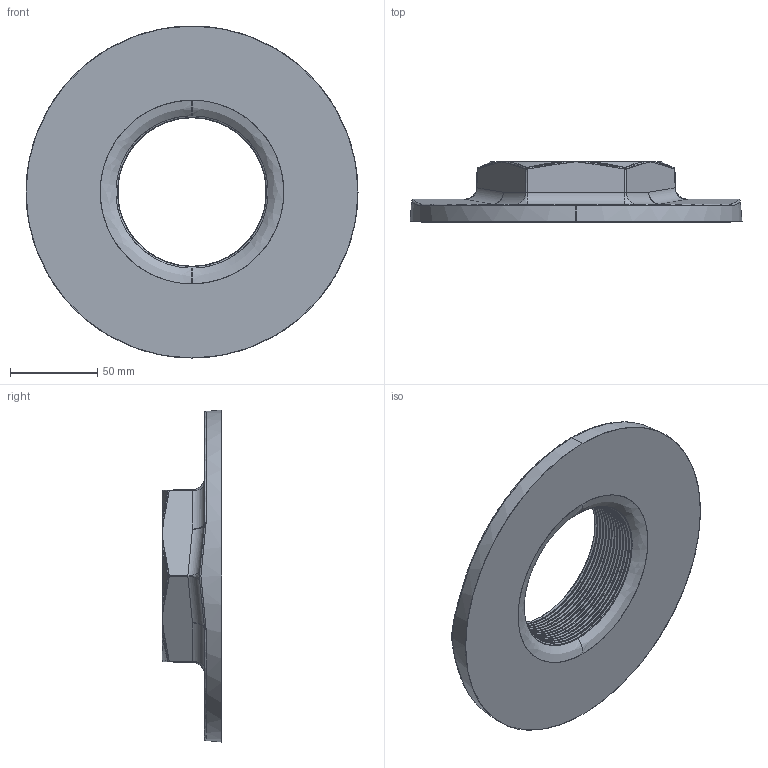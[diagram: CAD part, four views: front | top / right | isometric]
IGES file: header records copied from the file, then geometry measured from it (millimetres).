
Start section: SolidWorks IGES file using analytic representation for surfaces
Global section: file name: C:\Users\Joel Rosa\Desktop\Tubulação\12-99-OK\12-99-012.IGS; native system: SolidWorks 2011; preprocessor: SolidWorks 2011; author: Joel Rosa; date: 131021.212330; units: millimetre
Bounding box: 190 x 34.3 x 190 mm (x, y, z)
Surface area: 71038 mm2 (no closed solid volume)
Topology: 0 solids, 0 shells, 336 faces, 3016 edges, 3000 vertices
Faces by surface type: bspline 243, revolution 93
